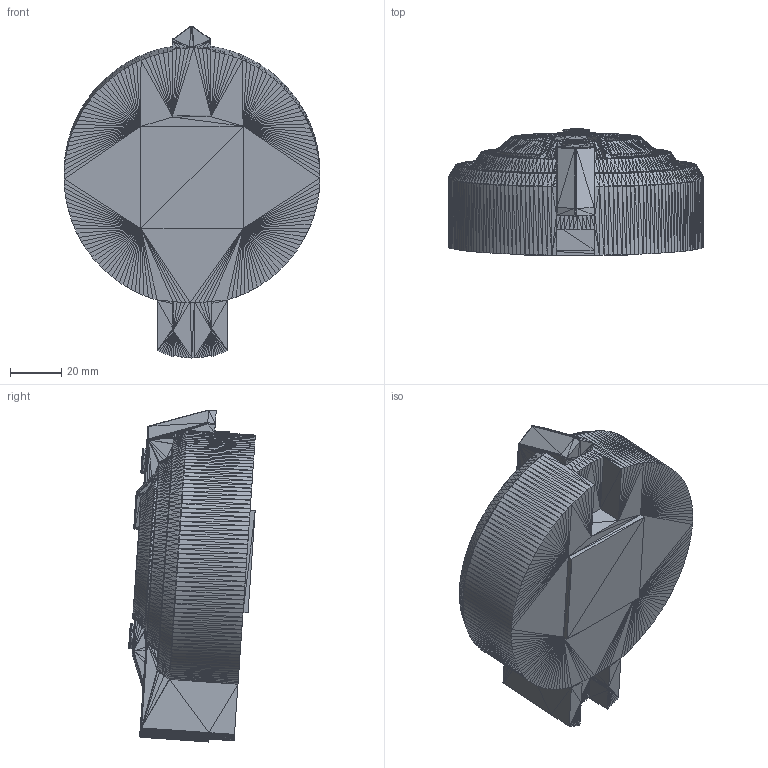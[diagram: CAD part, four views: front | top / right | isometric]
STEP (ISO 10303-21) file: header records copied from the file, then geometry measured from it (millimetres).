
FILE_DESCRIPTION((''),'2;1');
FILE_NAME('Dial', '2025-03-27T07:26:34', (''), (''), 'ImageToStl.com STEP Converter','', '');
FILE_SCHEMA(('AUTOMOTIVE_DESIGN_CC2'));
Length unit declared in the file: metre
Products named in the file (1): product0
Bounding box: 100 x 49.51 x 129.75 mm (x, y, z)
Surface area: 34084.4 mm2 (no closed solid volume)
Topology: 0 solids, 27500 shells, 27500 faces, 82500 edges, 13742 vertices
Faces by surface type: plane 27500
Entity records: 660019 total; most frequent: DIRECTION 137502, ORIENTED_EDGE 82500, EDGE_CURVE 82500, LINE 82500, VECTOR 82500, AXIS2_PLACEMENT_3D 27501, STYLED_ITEM 27501, FACE_SURFACE 27500
